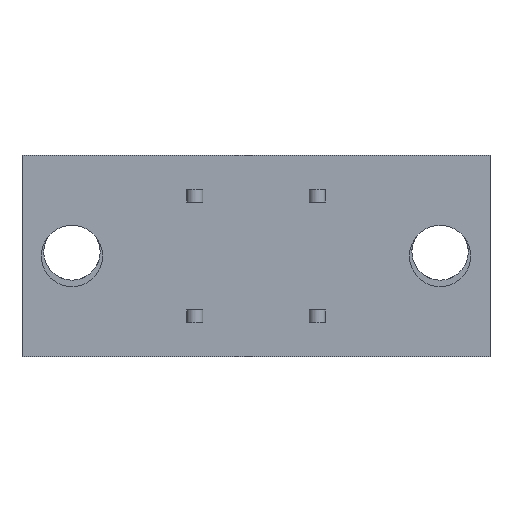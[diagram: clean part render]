
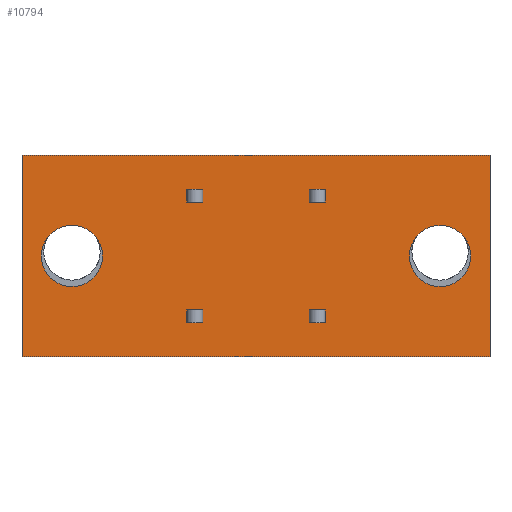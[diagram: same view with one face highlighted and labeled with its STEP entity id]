
A CAD part, front view. The second image highlights one B-rep face of the part: STEP entity #10794.
In plain terms, the highlighted planar face has unit normal (0, -1, 0).
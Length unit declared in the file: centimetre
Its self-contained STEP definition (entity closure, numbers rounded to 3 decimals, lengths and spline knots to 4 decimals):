
#566=CIRCLE('',#18427,0.19);
#567=CIRCLE('',#18428,0.19);
#757=VERTEX_POINT('',#14278);
#758=VERTEX_POINT('',#14279);
#761=VERTEX_POINT('',#14287);
#767=VERTEX_POINT('',#14302);
#768=VERTEX_POINT('',#14303);
#771=VERTEX_POINT('',#14311);
#773=VERTEX_POINT('',#14317);
#794=VERTEX_POINT('',#14378);
#806=VERTEX_POINT('',#14423);
#807=VERTEX_POINT('',#14424);
#808=VERTEX_POINT('',#14426);
#809=VERTEX_POINT('',#14428);
#810=VERTEX_POINT('',#14431);
#811=VERTEX_POINT('',#14432);
#812=VERTEX_POINT('',#14434);
#813=VERTEX_POINT('',#14436);
#814=VERTEX_POINT('',#14439);
#815=VERTEX_POINT('',#14440);
#816=VERTEX_POINT('',#14442);
#817=VERTEX_POINT('',#14444);
#818=VERTEX_POINT('',#14447);
#819=VERTEX_POINT('',#14449);
#1858=VECTOR('',#12061,1.);
#1862=VECTOR('',#12066,1.);
#1868=VECTOR('',#12076,1.);
#1871=VECTOR('',#12082,1.);
#1874=VECTOR('',#12086,1.);
#1896=VECTOR('',#12135,1.);
#1897=VECTOR('',#12137,1.);
#1901=VECTOR('',#12142,1.);
#1920=VECTOR('',#12170,1.);
#1921=VECTOR('',#12171,1.);
#1922=VECTOR('',#12172,1.);
#1923=VECTOR('',#12173,1.);
#1924=VECTOR('',#12174,1.);
#1925=VECTOR('',#12175,1.);
#1926=VECTOR('',#12176,1.);
#1927=VECTOR('',#12177,1.);
#1928=VECTOR('',#12178,1.);
#1929=VECTOR('',#12179,1.);
#1930=VECTOR('',#12180,1.);
#1931=VECTOR('',#12181,1.);
#3130=LINE('',#14277,#1858);
#3134=LINE('',#14286,#1862);
#3140=LINE('',#14301,#1868);
#3143=LINE('',#14310,#1871);
#3146=LINE('',#14316,#1874);
#3168=LINE('',#14375,#1896);
#3169=LINE('',#14377,#1897);
#3173=LINE('',#14384,#1901);
#3192=LINE('',#14422,#1920);
#3193=LINE('',#14425,#1921);
#3194=LINE('',#14427,#1922);
#3195=LINE('',#14429,#1923);
#3196=LINE('',#14430,#1924);
#3197=LINE('',#14433,#1925);
#3198=LINE('',#14435,#1926);
#3199=LINE('',#14437,#1927);
#3200=LINE('',#14438,#1928);
#3201=LINE('',#14441,#1929);
#3202=LINE('',#14443,#1930);
#3203=LINE('',#14445,#1931);
#4473=EDGE_CURVE('',#757,#758,#3130,.T.);
#4477=EDGE_CURVE('',#761,#757,#3134,.T.);
#4484=EDGE_CURVE('',#767,#768,#3140,.T.);
#4488=EDGE_CURVE('',#771,#767,#3143,.T.);
#4491=EDGE_CURVE('',#773,#771,#3146,.T.);
#4520=EDGE_CURVE('',#768,#773,#3168,.T.);
#4521=EDGE_CURVE('',#794,#761,#3169,.T.);
#4525=EDGE_CURVE('',#758,#794,#3173,.T.);
#4544=EDGE_CURVE('',#806,#807,#3192,.T.);
#4545=EDGE_CURVE('',#807,#808,#3193,.T.);
#4546=EDGE_CURVE('',#809,#808,#3194,.T.);
#4547=EDGE_CURVE('',#809,#806,#3195,.T.);
#4548=EDGE_CURVE('',#810,#811,#3196,.T.);
#4549=EDGE_CURVE('',#812,#810,#3197,.T.);
#4550=EDGE_CURVE('',#813,#812,#3198,.T.);
#4551=EDGE_CURVE('',#811,#813,#3199,.T.);
#4552=EDGE_CURVE('',#814,#815,#3200,.T.);
#4553=EDGE_CURVE('',#816,#814,#3201,.T.);
#4554=EDGE_CURVE('',#817,#816,#3202,.T.);
#4555=EDGE_CURVE('',#815,#817,#3203,.T.);
#4556=EDGE_CURVE('',#818,#818,#566,.T.);
#4557=EDGE_CURVE('',#819,#819,#567,.T.);
#6450=ORIENTED_EDGE('',*,*,#4544,.T.);
#6451=ORIENTED_EDGE('',*,*,#4545,.T.);
#6452=ORIENTED_EDGE('',*,*,#4546,.F.);
#6453=ORIENTED_EDGE('',*,*,#4547,.T.);
#6454=ORIENTED_EDGE('',*,*,#4548,.F.);
#6455=ORIENTED_EDGE('',*,*,#4549,.F.);
#6456=ORIENTED_EDGE('',*,*,#4550,.F.);
#6457=ORIENTED_EDGE('',*,*,#4551,.F.);
#6458=ORIENTED_EDGE('',*,*,#4552,.F.);
#6459=ORIENTED_EDGE('',*,*,#4553,.F.);
#6460=ORIENTED_EDGE('',*,*,#4554,.F.);
#6461=ORIENTED_EDGE('',*,*,#4555,.F.);
#6462=ORIENTED_EDGE('',*,*,#4556,.T.);
#6463=ORIENTED_EDGE('',*,*,#4557,.T.);
#6464=ORIENTED_EDGE('',*,*,#4491,.T.);
#6465=ORIENTED_EDGE('',*,*,#4488,.T.);
#6466=ORIENTED_EDGE('',*,*,#4484,.T.);
#6467=ORIENTED_EDGE('',*,*,#4520,.T.);
#6468=ORIENTED_EDGE('',*,*,#4477,.T.);
#6469=ORIENTED_EDGE('',*,*,#4473,.T.);
#6470=ORIENTED_EDGE('',*,*,#4525,.T.);
#6471=ORIENTED_EDGE('',*,*,#4521,.T.);
#9413=EDGE_LOOP('',(#6450,#6451,#6452,#6453));
#9414=EDGE_LOOP('',(#6454,#6455,#6456,#6457));
#9415=EDGE_LOOP('',(#6458,#6459,#6460,#6461));
#9416=EDGE_LOOP('',(#6462));
#9417=EDGE_LOOP('',(#6463));
#9418=EDGE_LOOP('',(#6464,#6465,#6466,#6467));
#9419=EDGE_LOOP('',(#6468,#6469,#6470,#6471));
#10107=FACE_BOUND('',#9413,.T.);
#10108=FACE_BOUND('',#9414,.T.);
#10109=FACE_BOUND('',#9415,.T.);
#10110=FACE_BOUND('',#9416,.T.);
#10111=FACE_BOUND('',#9417,.T.);
#10112=FACE_BOUND('',#9418,.T.);
#10113=FACE_BOUND('',#9419,.T.);
#10794=ADVANCED_FACE('',(#10107,#10108,#10109,#10110,#10111,#10112,#10113),
#11403,.T.);
#11403=PLANE('',#18426);
#12061=DIRECTION('',(0.,0.,-1.));
#12066=DIRECTION('',(1.,0.,0.));
#12076=DIRECTION('',(1.,0.,0.));
#12082=DIRECTION('',(0.,0.,1.));
#12086=DIRECTION('',(-1.,0.,0.));
#12135=DIRECTION('',(0.,0.,-1.));
#12137=DIRECTION('',(0.,0.,1.));
#12142=DIRECTION('',(-1.,0.,0.));
#12169=DIRECTION('',(0.,-1.,0.));
#12170=DIRECTION('',(1.,0.,0.));
#12171=DIRECTION('',(0.,0.,1.));
#12172=DIRECTION('',(1.,0.,0.));
#12173=DIRECTION('',(0.,0.,-1.));
#12174=DIRECTION('',(-1.,0.,0.));
#12175=DIRECTION('',(0.,0.,1.));
#12176=DIRECTION('',(1.,0.,0.));
#12177=DIRECTION('',(0.,0.,-1.));
#12178=DIRECTION('',(1.,0.,0.));
#12179=DIRECTION('',(0.,0.,-1.));
#12180=DIRECTION('',(-1.,0.,0.));
#12181=DIRECTION('',(0.,0.,1.));
#12182=DIRECTION('',(0.,1.,0.));
#12183=DIRECTION('',(0.19,0.,0.));
#12184=DIRECTION('',(0.,1.,0.));
#12185=DIRECTION('',(0.19,0.,0.));
#14277=CARTESIAN_POINT('',(0.812,-0.53,-0.1875));
#14278=CARTESIAN_POINT('',(0.812,-0.53,-0.335));
#14279=CARTESIAN_POINT('',(0.812,-0.53,-0.415));
#14286=CARTESIAN_POINT('',(0.155,-0.53,-0.335));
#14287=CARTESIAN_POINT('',(0.712,-0.53,-0.335));
#14301=CARTESIAN_POINT('',(0.155,-0.53,0.415));
#14302=CARTESIAN_POINT('',(0.712,-0.53,0.415));
#14303=CARTESIAN_POINT('',(0.812,-0.53,0.415));
#14310=CARTESIAN_POINT('',(0.712,-0.53,0.1875));
#14311=CARTESIAN_POINT('',(0.712,-0.53,0.335));
#14316=CARTESIAN_POINT('',(0.155,-0.53,0.335));
#14317=CARTESIAN_POINT('',(0.812,-0.53,0.335));
#14375=CARTESIAN_POINT('',(0.812,-0.53,0.1875));
#14377=CARTESIAN_POINT('',(0.712,-0.53,-0.1875));
#14378=CARTESIAN_POINT('',(0.712,-0.53,-0.415));
#14384=CARTESIAN_POINT('',(0.155,-0.53,-0.415));
#14421=CARTESIAN_POINT('',(-0.452,-0.53,0.));
#14422=CARTESIAN_POINT('',(-1.072,-0.53,-0.625));
#14423=CARTESIAN_POINT('',(-1.072,-0.53,-0.625));
#14424=CARTESIAN_POINT('',(1.834,-0.53,-0.625));
#14425=CARTESIAN_POINT('',(1.834,-0.53,0.625));
#14426=CARTESIAN_POINT('',(1.834,-0.53,0.625));
#14427=CARTESIAN_POINT('',(-1.072,-0.53,0.625));
#14428=CARTESIAN_POINT('',(-1.072,-0.53,0.625));
#14429=CARTESIAN_POINT('',(-1.072,-0.53,0.625));
#14430=CARTESIAN_POINT('',(-0.155,-0.53,-0.335));
#14431=CARTESIAN_POINT('',(0.05,-0.53,-0.335));
#14432=CARTESIAN_POINT('',(-0.05,-0.53,-0.335));
#14433=CARTESIAN_POINT('',(0.05,-0.53,-0.1875));
#14434=CARTESIAN_POINT('',(0.05,-0.53,-0.415));
#14435=CARTESIAN_POINT('',(-0.155,-0.53,-0.415));
#14436=CARTESIAN_POINT('',(-0.05,-0.53,-0.415));
#14437=CARTESIAN_POINT('',(-0.05,-0.53,-0.1875));
#14438=CARTESIAN_POINT('',(-0.155,-0.53,0.335));
#14439=CARTESIAN_POINT('',(-0.05,-0.53,0.335));
#14440=CARTESIAN_POINT('',(0.05,-0.53,0.335));
#14441=CARTESIAN_POINT('',(-0.05,-0.53,0.1875));
#14442=CARTESIAN_POINT('',(-0.05,-0.53,0.415));
#14443=CARTESIAN_POINT('',(-0.155,-0.53,0.415));
#14444=CARTESIAN_POINT('',(0.05,-0.53,0.415));
#14445=CARTESIAN_POINT('',(0.05,-0.53,0.1875));
#14446=CARTESIAN_POINT('',(-0.762,-0.53,0.));
#14447=CARTESIAN_POINT('',(-0.952,-0.53,0.));
#14448=CARTESIAN_POINT('',(1.524,-0.53,0.));
#14449=CARTESIAN_POINT('',(1.334,-0.53,0.));
#18426=AXIS2_PLACEMENT_3D('',#14421,#12169,$);
#18427=AXIS2_PLACEMENT_3D('',#14446,#12182,#12183);
#18428=AXIS2_PLACEMENT_3D('',#14448,#12184,#12185);
